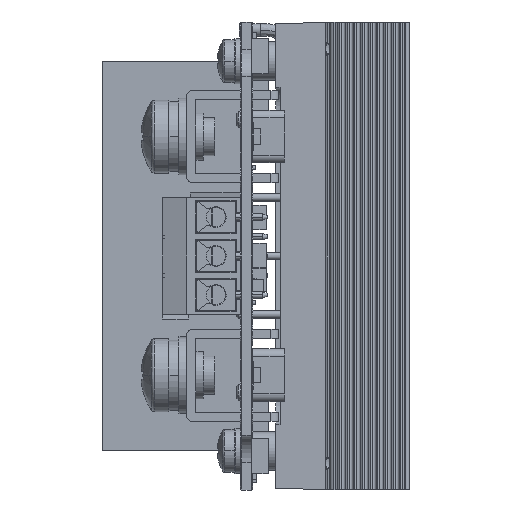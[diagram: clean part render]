
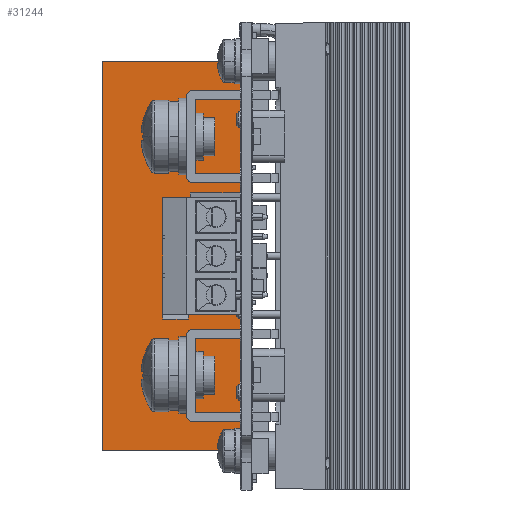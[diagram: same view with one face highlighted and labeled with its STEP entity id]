
A CAD part, left-side view. The second image highlights one B-rep face of the part: STEP entity #31244.
In plain terms, the highlighted planar face has unit normal (-1, 0, 0).
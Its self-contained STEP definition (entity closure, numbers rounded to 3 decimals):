
#6250 = DIRECTION ( 'NONE',  ( 0., -1., 0. ) ) ;
#6829 = EDGE_CURVE ( 'NONE', #52294, #86893, #41527, .T. ) ;
#21983 = VECTOR ( 'NONE', #23627, 1000. ) ;
#23627 = DIRECTION ( 'NONE',  ( 0., 0., 1. ) ) ;
#24043 = CARTESIAN_POINT ( 'NONE',  ( -20.04, 33.69, 0. ) ) ;
#25184 = EDGE_CURVE ( 'NONE', #86893, #124540, #89981, .T. ) ;
#29072 = DIRECTION ( 'NONE',  ( 0., 0., 1. ) ) ;
#29098 = ORIENTED_EDGE ( 'NONE', *, *, #116292, .F. ) ;
#29248 = DIRECTION ( 'NONE',  ( 1., 0., 0. ) ) ;
#31244 = ADVANCED_FACE ( 'NONE', ( #91819 ), #116687, .F. ) ;
#33861 = VECTOR ( 'NONE', #6250, 1000. ) ;
#39363 = VERTEX_POINT ( 'NONE', #113370 ) ;
#41527 = LINE ( 'NONE', #113541, #33861 ) ;
#45633 = CARTESIAN_POINT ( 'NONE',  ( -20.04, 33.69, -25.4 ) ) ;
#49689 = VECTOR ( 'NONE', #29072, 1000. ) ;
#52294 = VERTEX_POINT ( 'NONE', #45633 ) ;
#61676 = CARTESIAN_POINT ( 'NONE',  ( -20.04, 24.69, 25.4 ) ) ;
#64998 = EDGE_CURVE ( 'NONE', #39363, #124540, #112972, .T. ) ;
#67376 = DIRECTION ( 'NONE',  ( 0., 0., -1. ) ) ;
#68454 = CARTESIAN_POINT ( 'NONE',  ( -20.04, 15.69, 0. ) ) ;
#71148 = VECTOR ( 'NONE', #91560, 1000. ) ;
#79487 = AXIS2_PLACEMENT_3D ( 'NONE', #98010, #29248, #67376 ) ;
#79875 = EDGE_LOOP ( 'NONE', ( #85514, #29098, #103651, #112281 ) ) ;
#85280 = CARTESIAN_POINT ( 'NONE',  ( -20.04, 15.69, 25.4 ) ) ;
#85514 = ORIENTED_EDGE ( 'NONE', *, *, #64998, .F. ) ;
#86893 = VERTEX_POINT ( 'NONE', #107736 ) ;
#89981 = LINE ( 'NONE', #68454, #49689 ) ;
#91560 = DIRECTION ( 'NONE',  ( 0., -1., 0. ) ) ;
#91819 = FACE_OUTER_BOUND ( 'NONE', #79875, .T. ) ;
#98010 = CARTESIAN_POINT ( 'NONE',  ( -20.04, 15.69, 25.4 ) ) ;
#103651 = ORIENTED_EDGE ( 'NONE', *, *, #6829, .T. ) ;
#107736 = CARTESIAN_POINT ( 'NONE',  ( -20.04, 15.69, -25.4 ) ) ;
#112281 = ORIENTED_EDGE ( 'NONE', *, *, #25184, .T. ) ;
#112972 = LINE ( 'NONE', #61676, #71148 ) ;
#113322 = LINE ( 'NONE', #24043, #21983 ) ;
#113370 = CARTESIAN_POINT ( 'NONE',  ( -20.04, 33.69, 25.4 ) ) ;
#113541 = CARTESIAN_POINT ( 'NONE',  ( -20.04, 24.69, -25.4 ) ) ;
#116292 = EDGE_CURVE ( 'NONE', #52294, #39363, #113322, .T. ) ;
#116687 = PLANE ( 'NONE',  #79487 ) ;
#124540 = VERTEX_POINT ( 'NONE', #85280 ) ;
